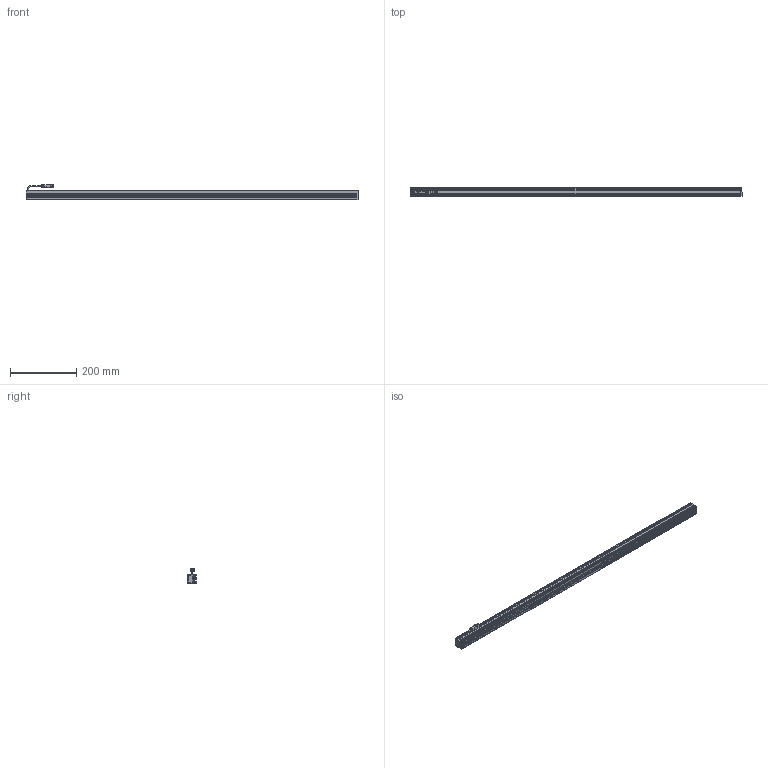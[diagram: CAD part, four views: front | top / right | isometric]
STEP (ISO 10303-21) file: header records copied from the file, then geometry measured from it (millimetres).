
FILE_DESCRIPTION (( 'STEP AP203' ), '1' );
FILE_NAME ('CK-BL100228.STEP', '2026-01-02T07:41:05', ( '' ), ( '' ), 'SwSTEP 2.0', 'SolidWorks 2022', '' );
FILE_SCHEMA (( 'CONFIG_CONTROL_DESIGN' ));
Length unit declared in the file: millimetre
Products named in the file (6): CK-BL100228-002A; 光源线-01; CK-BL100228-001A; CK-BL100228-003A; 十字沉头螺丝 M2x10; CK-BL100228
Assembly tree (11 placements, depth 2):
  CK-BL100228
    CK-BL100228-001A
    CK-BL100228-002A  x2
    CK-BL100228-003A
    光源线-01
    十字沉头螺丝 M2x10  x6
Bounding box: 1002 x 27 x 47.34 mm (x, y, z)
Volume: 320277.2 mm3; surface area: 280178.2 mm2
Topology: 13 solids, 13 shells, 575 faces, 1494 edges, 950 vertices
Faces by surface type: plane 337, cylinder 172, cone 46, bspline 20
Entity records: 13997 total; most frequent: CARTESIAN_POINT 2782, ORIENTED_EDGE 2202, DIRECTION 2163, EDGE_CURVE 1101, LINE 781, VECTOR 781, VERTEX_POINT 714, AXIS2_PLACEMENT_3D 691
